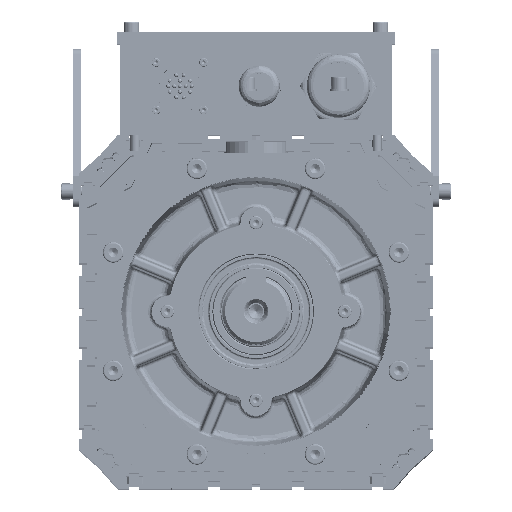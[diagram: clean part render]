
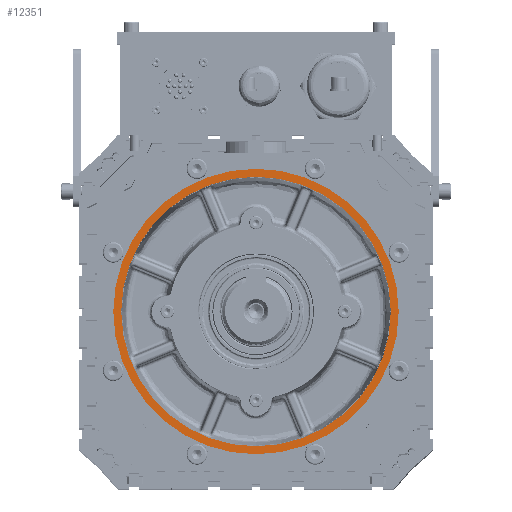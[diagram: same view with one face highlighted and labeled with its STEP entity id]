
A CAD part, top view. The second image highlights one B-rep face of the part: STEP entity #12351.
In plain terms, the highlighted planar face has unit normal (0, 0, 1) as drawn and (0, 0, -1) by its records, which use the part's own axes.
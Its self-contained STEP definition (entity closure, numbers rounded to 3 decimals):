
#2729 = DIRECTION ( 'NONE',  ( 1., 0., 0. ) ) ;
#4118 = DIRECTION ( 'NONE',  ( -1., 0., 0. ) ) ;
#5772 = DIRECTION ( 'NONE',  ( 0., 0., 1. ) ) ;
#8345 = EDGE_CURVE ( 'NONE', #33357, #38597, #130788, .T. ) ;
#8997 = ORIENTED_EDGE ( 'NONE', *, *, #171401, .F. ) ;
#12351 = ADVANCED_FACE ( 'NONE', ( #46291, #34780 ), #176968, .F. ) ;
#12503 = CARTESIAN_POINT ( 'NONE',  ( -28.364, -25.305, 205. ) ) ;
#18012 = DIRECTION ( 'NONE',  ( 0., 0., 1. ) ) ;
#28436 = CARTESIAN_POINT ( 'NONE',  ( -113.364, -25.305, 205. ) ) ;
#29264 = CIRCLE ( 'NONE', #145862, 90. ) ;
#30351 = CARTESIAN_POINT ( 'NONE',  ( 61.636, -25.305, 205. ) ) ;
#32103 = CARTESIAN_POINT ( 'NONE',  ( -28.364, -25.305, 205. ) ) ;
#33357 = VERTEX_POINT ( 'NONE', #108484 ) ;
#34780 = FACE_BOUND ( 'NONE', #151769, .T. ) ;
#35035 = CARTESIAN_POINT ( 'NONE',  ( -28.364, -25.305, 205. ) ) ;
#38597 = VERTEX_POINT ( 'NONE', #30351 ) ;
#44184 = ORIENTED_EDGE ( 'NONE', *, *, #112311, .F. ) ;
#46291 = FACE_OUTER_BOUND ( 'NONE', #145312, .T. ) ;
#73543 = VERTEX_POINT ( 'NONE', #78738 ) ;
#73810 = CARTESIAN_POINT ( 'NONE',  ( -28.364, -25.305, 205. ) ) ;
#76107 = DIRECTION ( 'NONE',  ( 0., 0., 1. ) ) ;
#78738 = CARTESIAN_POINT ( 'NONE',  ( 56.636, -25.305, 205. ) ) ;
#79613 = DIRECTION ( 'NONE',  ( -1., 0., 0. ) ) ;
#83809 = DIRECTION ( 'NONE',  ( 0., 0., -1. ) ) ;
#90607 = ORIENTED_EDGE ( 'NONE', *, *, #8345, .F. ) ;
#91214 = AXIS2_PLACEMENT_3D ( 'NONE', #106326, #18012, #2729 ) ;
#95663 = CIRCLE ( 'NONE', #163123, 85. ) ;
#97780 = DIRECTION ( 'NONE',  ( -1., 0., 0. ) ) ;
#106326 = CARTESIAN_POINT ( 'NONE',  ( -28.364, -115.305, 205. ) ) ;
#108415 = CIRCLE ( 'NONE', #163452, 85. ) ;
#108484 = CARTESIAN_POINT ( 'NONE',  ( -118.364, -25.305, 205. ) ) ;
#112311 = EDGE_CURVE ( 'NONE', #115786, #73543, #108415, .T. ) ;
#115786 = VERTEX_POINT ( 'NONE', #28436 ) ;
#130788 = CIRCLE ( 'NONE', #134410, 90. ) ;
#134410 = AXIS2_PLACEMENT_3D ( 'NONE', #35035, #5772, #79613 ) ;
#145312 = EDGE_LOOP ( 'NONE', ( #90607, #147901 ) ) ;
#145862 = AXIS2_PLACEMENT_3D ( 'NONE', #32103, #76107, #4118 ) ;
#146191 = DIRECTION ( 'NONE',  ( -1., 0., 0. ) ) ;
#147901 = ORIENTED_EDGE ( 'NONE', *, *, #170274, .F. ) ;
#151769 = EDGE_LOOP ( 'NONE', ( #44184, #8997 ) ) ;
#163123 = AXIS2_PLACEMENT_3D ( 'NONE', #12503, #83809, #97780 ) ;
#163452 = AXIS2_PLACEMENT_3D ( 'NONE', #73810, #175441, #146191 ) ;
#170274 = EDGE_CURVE ( 'NONE', #38597, #33357, #29264, .T. ) ;
#171401 = EDGE_CURVE ( 'NONE', #73543, #115786, #95663, .T. ) ;
#175441 = DIRECTION ( 'NONE',  ( 0., 0., -1. ) ) ;
#176968 = PLANE ( 'NONE',  #91214 ) ;
